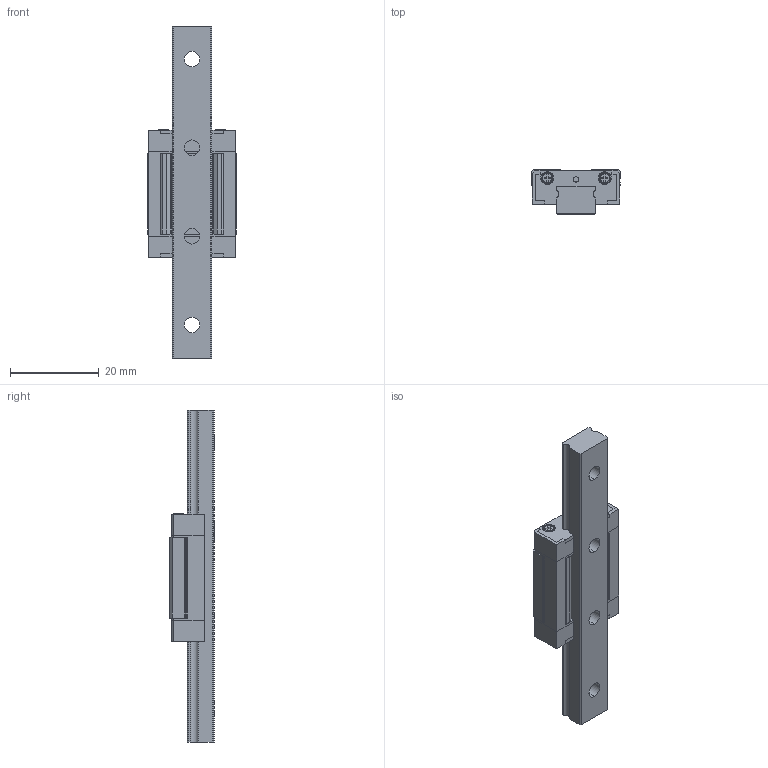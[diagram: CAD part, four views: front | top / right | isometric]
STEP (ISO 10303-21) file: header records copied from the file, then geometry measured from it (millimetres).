
FILE_DESCRIPTION (( 'STEP AP214' ), '1' );
FILE_NAME ('FBXX09NS-SS.STEP', '2022-08-06T05:33:06', ( 'JST' ), ( 'JST' ), 'SwSTEP 2.0', 'SolidWorks 2016', '' );
FILE_SCHEMA (( 'AUTOMOTIVE_DESIGN' ));
Length unit declared in the file: millimetre
Products named in the file (8): 09NS-SS滅鳥え; 09NS悜遠釱; 09N絳寢; FBXX09NS-SS; 09NS傷裔; M1.6蹟佪; 09NS賑輸; 09NS-SS賑輸
Assembly tree (12 placements, depth 3):
  FBXX09NS-SS
    09N絳寢
    09NS-SS賑輸
      09NS賑輸
      09NS-SS滅鳥え  x2
      09NS傷裔  x2
      09NS悜遠釱
      M1.6蹟佪  x4
Bounding box: 20 x 10 x 75 mm (x, y, z)
Volume: 6481.3 mm3; surface area: 6927.1 mm2
Topology: 11 solids, 11 shells, 514 faces, 1390 edges, 912 vertices
Faces by surface type: cylinder 237, plane 233, cone 24, bspline 20
Entity records: 12274 total; most frequent: CARTESIAN_POINT 5278, ORIENTED_EDGE 1426, DIRECTION 1366, EDGE_CURVE 713, VECTOR 468, LINE 468, VERTEX_POINT 468, AXIS2_PLACEMENT_3D 449
